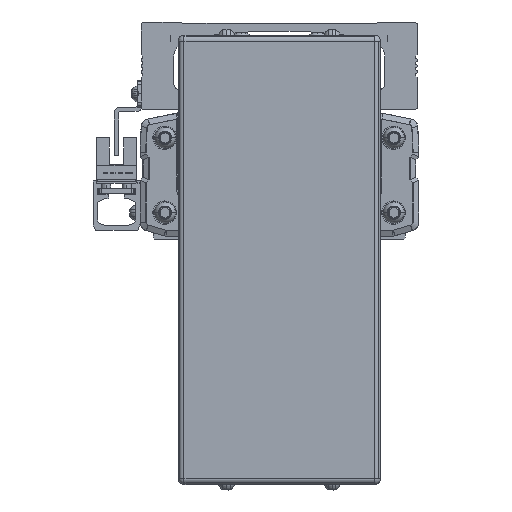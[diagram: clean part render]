
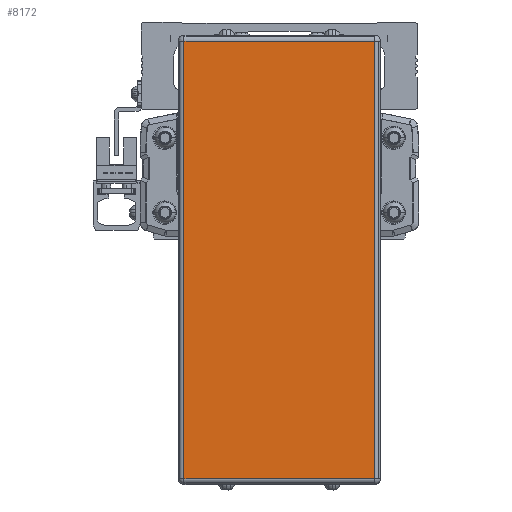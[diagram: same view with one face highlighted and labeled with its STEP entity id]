
A CAD part, front view. The second image highlights one B-rep face of the part: STEP entity #8172.
In plain terms, the highlighted planar face has unit normal (0, -1, 0).
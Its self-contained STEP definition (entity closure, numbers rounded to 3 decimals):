
#8172=ADVANCED_FACE('',(#16408),#16409,.T.);
#16408=FACE_OUTER_BOUND('',#26285,.T.);
#16409=PLANE('',#26286);
#26285=EDGE_LOOP('',(#49933,#49934,#49935,#49936));
#26286=AXIS2_PLACEMENT_3D('',#49937,#49938,#49939);
#49933=ORIENTED_EDGE('',*,*,#57821,.F.);
#49934=ORIENTED_EDGE('',*,*,#59088,.F.);
#49935=ORIENTED_EDGE('',*,*,#57673,.F.);
#49936=ORIENTED_EDGE('',*,*,#50133,.F.);
#49937=CARTESIAN_POINT('',(0.,-239.778,-50.1));
#49938=DIRECTION('',(0.0,-1.0,0.));
#49939=DIRECTION('',(1.0,0.0,0.0));
#50133=EDGE_CURVE('',#59521,#59523,#59524,.T.);
#57673=EDGE_CURVE('',#59523,#71212,#71213,.T.);
#57821=EDGE_CURVE('',#68105,#59521,#71390,.T.);
#59088=EDGE_CURVE('',#71212,#68105,#72786,.T.);
#59521=VERTEX_POINT('',#73282);
#59523=VERTEX_POINT('',#73284);
#59524=LINE('',#73285,#73286);
#68105=VERTEX_POINT('',#85805);
#71212=VERTEX_POINT('',#90622);
#71213=LINE('',#90623,#90624);
#71390=LINE('',#90867,#90868);
#72786=LINE('',#92852,#92853);
#73282=CARTESIAN_POINT('',(32.5,-239.778,-124.7));
#73284=CARTESIAN_POINT('',(-32.5,-239.778,-124.7));
#73285=CARTESIAN_POINT('',(0.,-239.778,-124.7));
#73286=VECTOR('',#93273,10.0);
#85805=CARTESIAN_POINT('',(32.5,-239.778,24.5));
#90622=CARTESIAN_POINT('',(-32.5,-239.778,24.5));
#90623=CARTESIAN_POINT('',(-32.5,-239.778,-50.1));
#90624=VECTOR('',#102448,10.0);
#90867=CARTESIAN_POINT('',(32.5,-239.778,-50.1));
#90868=VECTOR('',#102576,10.0);
#92852=CARTESIAN_POINT('',(0.,-239.778,24.5));
#92853=VECTOR('',#103598,10.0);
#93273=DIRECTION('',(-1.0,0.0,0.0));
#102448=DIRECTION('',(0.0,0.,1.0));
#102576=DIRECTION('',(0.0,0.,-1.0));
#103598=DIRECTION('',(1.0,0.0,0.0));
